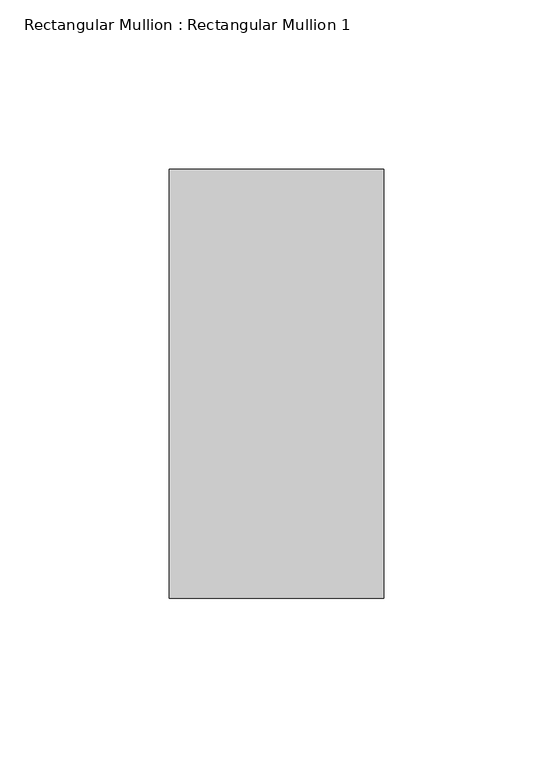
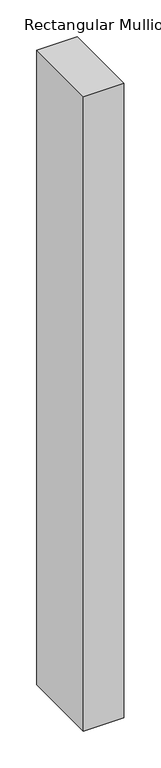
"""IFC4 building model written with IfcOpenShell, lengths in millimetres: member geometry, Rectangular Mullion : Rectangular Mullion 1."""

from ifc_helpers import new_model, si_unit, frame, origin, place, context, project, spatial, polyline, outline, extrude, source, transform, mapped, element, save


def rectangular_mullion_rectangular_mullion_1_74aeaaab(model_context):
    return source(origin(), model_context, "Body", "SweptSolid", [
        extrude(outline(polyline([(0.0, 63.5), (0.0, -63.5), (-63.5, -63.5), (-63.5, 63.5), (0.0, 63.5)])), frame((0.0, 0.0, -1053.1928571), z_axis=(0.0, 0.0, 1.0), x_axis=(1.0, 0.0, 0.0)), (0.0, 0.0, 1.0), 1053.1928571),
    ])


if __name__ == "__main__":
    model = new_model("IFC4")
    model_context = context("Model", 3, world=origin())
    ifc_project = project(units=[si_unit("LENGTHUNIT", "METRE", prefix="MILLI")], contexts=[model_context])
    site = spatial("IfcSite", under=ifc_project)
    building = spatial("IfcBuilding", under=site)
    placement = place(None, origin())
    rectangular_mullion_rectangular_mullion_1_shape = rectangular_mullion_rectangular_mullion_1_74aeaaab(model_context)
    element("IfcMember", 1, ObjectType="Rectangular Mullion : Rectangular Mullion 1", at=placement, inside=building, context=model_context, shape_type="MappedRepresentation", body=[
        mapped(rectangular_mullion_rectangular_mullion_1_shape, transform((0.0, 0.0, 0.0), x_axis=(1.0, 0.0, 0.0), y_axis=(0.0, 1.0, 0.0), z_axis=(0.0, 0.0, 1.0))),
    ])
    save(model, "model.ifc")
